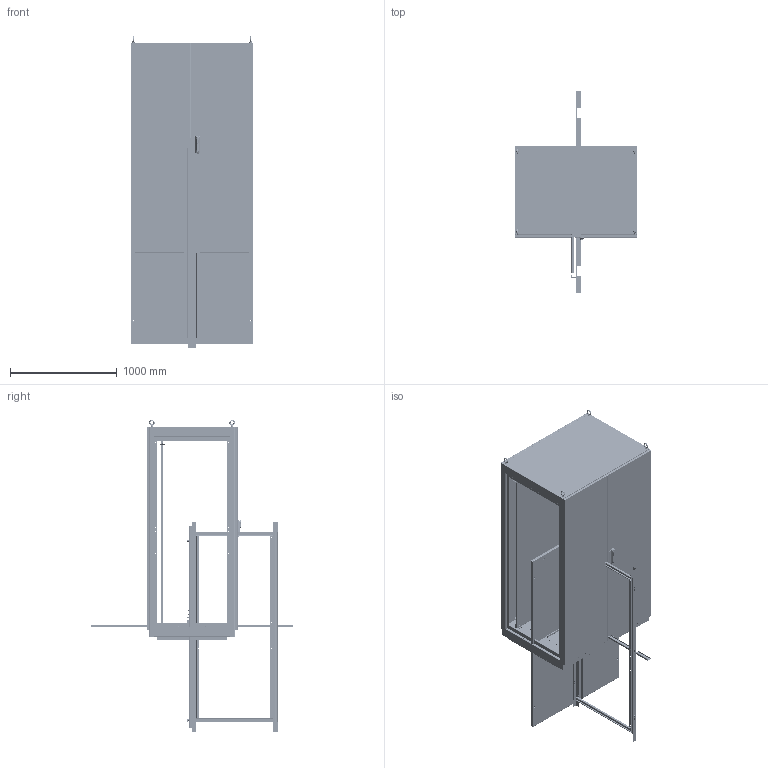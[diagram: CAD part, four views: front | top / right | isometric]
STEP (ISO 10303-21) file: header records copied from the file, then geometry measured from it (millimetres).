
FILE_DESCRIPTION( ( 'Unknown' ), '1' );
FILE_NAME( 'Q:/IME/WEB DRAWINGS/IMET18128.stp', 'Unknown', ( 'Unknown' ), ( 'Unknown' ), 'XStep 1.0', 'Unknown', ' ' );
FILE_SCHEMA( ( 'CONFIG_CONTROL_DESIGN' ) );
Length unit declared in the file: millimetre
Products named in the file (139): Assem1; Assem2; Assem3; Assem4; Assem5; Assem6; Assem7; Assem8; Assem9; Assem10; Assem11; Assem12; Assem13; Assem14; Assem15; Assem16; Assem17; Assem18; Assem19; Assem20; Assem21; Assem22; Assem23; Assem24; 1; 2; 3; 4; 5; 6; 7; 8; 9; 10; 11; 12; 13; 14; 15; 16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
Bounding box: 1148.54 x 1892.5 x 2917.09 mm (x, y, z)
Volume: 77518683.7 mm3; surface area: 80815445.5 mm2
Topology: 584 solids, 590 shells, 13305 faces, 33556 edges, 21918 vertices
Faces by surface type: plane 8254, cylinder 3922, cone 452, torus 442, bspline 235
Full cylindrical faces by diameter (mm): 2.464 x16, 3.175 x3, 3.454 x16, 3.607 x12, 4.166 x72, 4.216 x16, 4.318 x16, 4.826 x16, 4.851 x8, 4.928 x16, 5.08 x28, 5.105 x12, 5.156 x12, 5.537 x118, 5.893 x14, 5.994 x26, 6 x46, 6.35 x98, 6.411 x31, 7.137 x28, 7.366 x12, 7.442 x12, 7.62 x18, 7.938 x88, 8.001 x32, 8.026 x8, 9.525 x22, 9.804 x29, 10.999 x22, 11.113 x16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
Entity records: 99660 total; most frequent: CARTESIAN_POINT 24619, DIRECTION 14368, ORIENTED_EDGE 13530, EDGE_CURVE 6765, AXIS2_PLACEMENT_3D 4921, VERTEX_POINT 4614, LINE 4526, VECTOR 4526
